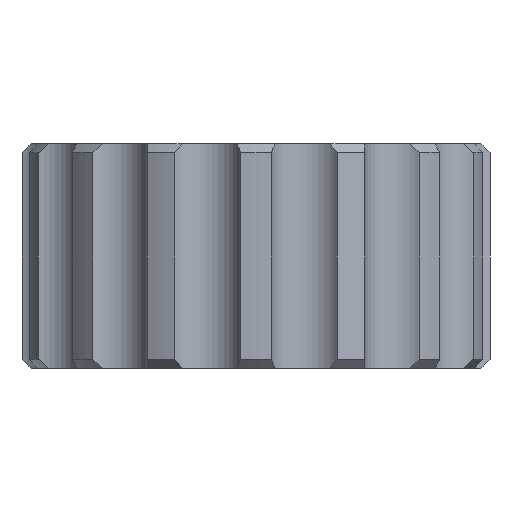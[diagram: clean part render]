
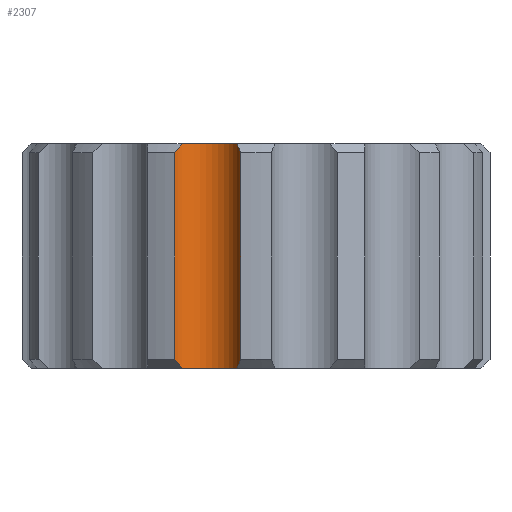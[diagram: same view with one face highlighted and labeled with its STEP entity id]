
A CAD part, front view. The second image highlights one B-rep face of the part: STEP entity #2307.
In plain terms, the highlighted cylindrical face has radius 4 mm (diameter 8 mm), a partial arc.
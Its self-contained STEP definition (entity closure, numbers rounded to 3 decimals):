
#31 = CARTESIAN_POINT ( 'NONE',  ( -35.51, -30.921, 48. ) ) ;
#441 = CARTESIAN_POINT ( 'NONE',  ( -31.855, -29.249, 24.319 ) ) ;
#587 = EDGE_LOOP ( 'NONE', ( #8113, #3230, #1240, #3110, #3585, #8202, #1877, #5403 ) ) ;
#763 = VECTOR ( 'NONE', #1677, 1000. ) ;
#917 = FACE_OUTER_BOUND ( 'NONE', #587, .T. ) ;
#988 = CARTESIAN_POINT ( 'NONE',  ( -37.853, -27.679, 48. ) ) ;
#1077 = AXIS2_PLACEMENT_3D ( 'NONE', #31, #1268, #1834 ) ;
#1195 = EDGE_CURVE ( 'NONE', #4070, #4878, #1368, .T. ) ;
#1206 = EDGE_CURVE ( 'NONE', #5886, #4070, #7898, .T. ) ;
#1230 = CARTESIAN_POINT ( 'NONE',  ( -38.658, -28.453, 47. ) ) ;
#1240 = ORIENTED_EDGE ( 'NONE', *, *, #1195, .T. ) ;
#1249 = CARTESIAN_POINT ( 'NONE',  ( -31.855, -29.249, 47.681 ) ) ;
#1268 = DIRECTION ( 'NONE',  ( 0., 0., 1. ) ) ;
#1336 = CIRCLE ( 'NONE', #7460, 4. ) ;
#1368 = B_SPLINE_CURVE_WITH_KNOTS ( 'NONE', 3,
 ( #5760, #7086, #4566, #1230 ),
 .UNSPECIFIED., .F., .F.,
 ( 4, 4 ),
 ( 0., 0.001 ),
 .UNSPECIFIED. ) ;
#1428 = VERTEX_POINT ( 'NONE', #5071 ) ;
#1577 = CARTESIAN_POINT ( 'NONE',  ( -31.63, -29.947, 25. ) ) ;
#1623 = EDGE_CURVE ( 'NONE', #7485, #5290, #6241, .T. ) ;
#1677 = DIRECTION ( 'NONE',  ( 0., 0., -1. ) ) ;
#1834 = DIRECTION ( 'NONE',  ( 1., 0., 0. ) ) ;
#1877 = ORIENTED_EDGE ( 'NONE', *, *, #1623, .T. ) ;
#1944 = CARTESIAN_POINT ( 'NONE',  ( -38.658, -28.453, 25. ) ) ;
#2108 = DIRECTION ( 'NONE',  ( 0., 0., 1. ) ) ;
#2307 = ADVANCED_FACE ( 'NONE', ( #917 ), #3546, .F. ) ;
#2937 = DIRECTION ( 'NONE',  ( 0., 0., 1. ) ) ;
#2970 = LINE ( 'NONE', #5471, #763 ) ;
#3061 = CARTESIAN_POINT ( 'NONE',  ( -31.719, -29.594, 24.653 ) ) ;
#3110 = ORIENTED_EDGE ( 'NONE', *, *, #8034, .T. ) ;
#3111 = CARTESIAN_POINT ( 'NONE',  ( -31.63, -29.947, 25. ) ) ;
#3230 = ORIENTED_EDGE ( 'NONE', *, *, #1206, .T. ) ;
#3257 = CARTESIAN_POINT ( 'NONE',  ( -32.051, -28.912, 24. ) ) ;
#3453 = CARTESIAN_POINT ( 'NONE',  ( -32.051, -28.912, 48. ) ) ;
#3546 = CYLINDRICAL_SURFACE ( 'NONE', #5577, 4. ) ;
#3585 = ORIENTED_EDGE ( 'NONE', *, *, #6561, .T. ) ;
#3820 = VERTEX_POINT ( 'NONE', #3888 ) ;
#3888 = CARTESIAN_POINT ( 'NONE',  ( -37.853, -27.679, 24. ) ) ;
#4070 = VERTEX_POINT ( 'NONE', #988 ) ;
#4344 = EDGE_CURVE ( 'NONE', #1428, #5886, #6932, .T. ) ;
#4470 = VERTEX_POINT ( 'NONE', #1944 ) ;
#4566 = CARTESIAN_POINT ( 'NONE',  ( -38.433, -28.167, 47.347 ) ) ;
#4705 = CARTESIAN_POINT ( 'NONE',  ( -38.433, -28.167, 24.653 ) ) ;
#4744 = LINE ( 'NONE', #8057, #4979 ) ;
#4878 = VERTEX_POINT ( 'NONE', #7266 ) ;
#4979 = VECTOR ( 'NONE', #2108, 1000. ) ;
#5071 = CARTESIAN_POINT ( 'NONE',  ( -31.63, -29.947, 47. ) ) ;
#5173 = EDGE_CURVE ( 'NONE', #5290, #1428, #4744, .T. ) ;
#5210 = CARTESIAN_POINT ( 'NONE',  ( -38.168, -27.907, 24.319 ) ) ;
#5290 = VERTEX_POINT ( 'NONE', #1577 ) ;
#5403 = ORIENTED_EDGE ( 'NONE', *, *, #5173, .T. ) ;
#5471 = CARTESIAN_POINT ( 'NONE',  ( -38.658, -28.453, 36. ) ) ;
#5472 = EDGE_CURVE ( 'NONE', #3820, #7485, #1336, .T. ) ;
#5577 = AXIS2_PLACEMENT_3D ( 'NONE', #8081, #2937, #6823 ) ;
#5760 = CARTESIAN_POINT ( 'NONE',  ( -37.853, -27.679, 48. ) ) ;
#5886 = VERTEX_POINT ( 'NONE', #3453 ) ;
#6067 = B_SPLINE_CURVE_WITH_KNOTS ( 'NONE', 3,
 ( #7936, #4705, #5210, #6677 ),
 .UNSPECIFIED., .F., .F.,
 ( 4, 4 ),
 ( 0., 0.001 ),
 .UNSPECIFIED. ) ;
#6241 = B_SPLINE_CURVE_WITH_KNOTS ( 'NONE', 3,
 ( #6346, #441, #3061, #3111 ),
 .UNSPECIFIED., .F., .F.,
 ( 4, 4 ),
 ( 0., 0.001 ),
 .UNSPECIFIED. ) ;
#6346 = CARTESIAN_POINT ( 'NONE',  ( -32.051, -28.912, 24. ) ) ;
#6474 = CARTESIAN_POINT ( 'NONE',  ( -32.051, -28.912, 48. ) ) ;
#6561 = EDGE_CURVE ( 'NONE', #4470, #3820, #6067, .T. ) ;
#6677 = CARTESIAN_POINT ( 'NONE',  ( -37.853, -27.679, 24. ) ) ;
#6823 = DIRECTION ( 'NONE',  ( 1., 0., 0. ) ) ;
#6932 = B_SPLINE_CURVE_WITH_KNOTS ( 'NONE', 3,
 ( #7062, #7643, #1249, #6474 ),
 .UNSPECIFIED., .F., .F.,
 ( 4, 4 ),
 ( 0., 0.001 ),
 .UNSPECIFIED. ) ;
#7062 = CARTESIAN_POINT ( 'NONE',  ( -31.63, -29.947, 47. ) ) ;
#7086 = CARTESIAN_POINT ( 'NONE',  ( -38.168, -27.907, 47.681 ) ) ;
#7113 = DIRECTION ( 'NONE',  ( 0., 0., -1. ) ) ;
#7266 = CARTESIAN_POINT ( 'NONE',  ( -38.658, -28.453, 47. ) ) ;
#7460 = AXIS2_PLACEMENT_3D ( 'NONE', #7780, #7113, #8332 ) ;
#7485 = VERTEX_POINT ( 'NONE', #3257 ) ;
#7643 = CARTESIAN_POINT ( 'NONE',  ( -31.719, -29.594, 47.347 ) ) ;
#7780 = CARTESIAN_POINT ( 'NONE',  ( -35.51, -30.921, 24. ) ) ;
#7898 = CIRCLE ( 'NONE', #1077, 4. ) ;
#7936 = CARTESIAN_POINT ( 'NONE',  ( -38.658, -28.453, 25. ) ) ;
#8034 = EDGE_CURVE ( 'NONE', #4878, #4470, #2970, .T. ) ;
#8057 = CARTESIAN_POINT ( 'NONE',  ( -31.63, -29.947, 36. ) ) ;
#8081 = CARTESIAN_POINT ( 'NONE',  ( -35.51, -30.921, 12.686 ) ) ;
#8113 = ORIENTED_EDGE ( 'NONE', *, *, #4344, .T. ) ;
#8202 = ORIENTED_EDGE ( 'NONE', *, *, #5472, .T. ) ;
#8332 = DIRECTION ( 'NONE',  ( 1., 0., 0. ) ) ;
